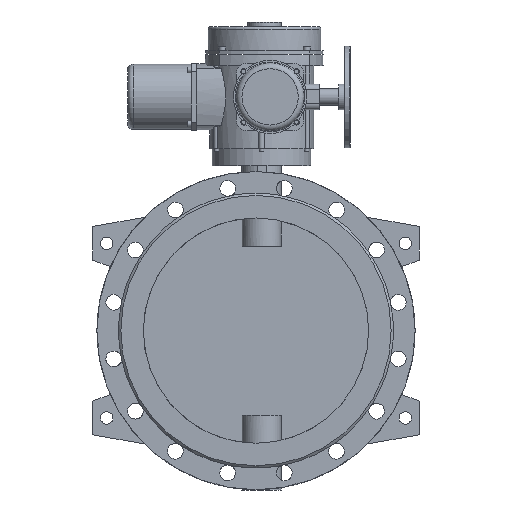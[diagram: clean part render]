
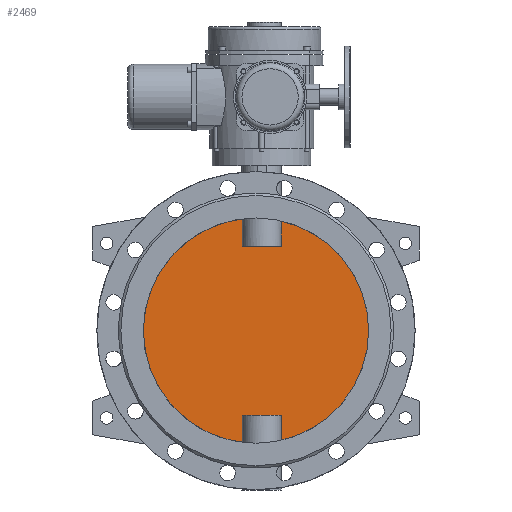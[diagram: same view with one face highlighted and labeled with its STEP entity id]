
A CAD part, front view. The second image highlights one B-rep face of the part: STEP entity #2469.
In plain terms, the highlighted planar face has unit normal (0, -1, 0).
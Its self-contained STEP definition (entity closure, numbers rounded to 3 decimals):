
#2469=ADVANCED_FACE('',(#6301),#6303,.F.);
#6301=FACE_BOUND('',#6302,.T.);
#6302=EDGE_LOOP('',(#8626,#8627,#8628,#8629,#8630,#8631,#8632,#8633));
#6303=PLANE('',#6304);
#6304=AXIS2_PLACEMENT_3D('',#6305,#6306,#6307);
#6305=CARTESIAN_POINT('',(0.,-5.,0.));
#6306=DIRECTION('',(0.,1.,0.));
#6307=DIRECTION('',(1.,0.,0.));
#8626=ORIENTED_EDGE('',*,*,#9831,.T.);
#8627=ORIENTED_EDGE('',*,*,#9847,.T.);
#8628=ORIENTED_EDGE('',*,*,#9848,.T.);
#8629=ORIENTED_EDGE('',*,*,#9849,.T.);
#8630=ORIENTED_EDGE('',*,*,#9833,.T.);
#8631=ORIENTED_EDGE('',*,*,#9850,.T.);
#8632=ORIENTED_EDGE('',*,*,#9851,.T.);
#8633=ORIENTED_EDGE('',*,*,#9852,.T.);
#9831=EDGE_CURVE('',#11296,#11297,#11298,.F.);
#9833=EDGE_CURVE('',#11301,#11299,#11302,.F.);
#9847=EDGE_CURVE('',#11297,#11324,#11325,.T.);
#9848=EDGE_CURVE('',#11324,#11326,#11327,.F.);
#9849=EDGE_CURVE('',#11326,#11301,#11328,.F.);
#9850=EDGE_CURVE('',#11299,#11329,#11330,.F.);
#9851=EDGE_CURVE('',#11329,#11331,#11332,.F.);
#9852=EDGE_CURVE('',#11331,#11296,#11333,.T.);
#11296=VERTEX_POINT('',#17680);
#11297=VERTEX_POINT('',#17681);
#11298=CIRCLE('',#17682,200.);
#11299=VERTEX_POINT('',#17686);
#11301=VERTEX_POINT('',#17749);
#11302=CIRCLE('',#17750,200.);
#11324=VERTEX_POINT('',#17919);
#11325=LINE('',#17920,#17921);
#11326=VERTEX_POINT('',#17923);
#11327=LINE('',#17924,#17925);
#11328=LINE('',#17927,#17928);
#11329=VERTEX_POINT('',#17930);
#11330=LINE('',#17931,#17932);
#11331=VERTEX_POINT('',#17934);
#11332=LINE('',#17935,#17936);
#11333=LINE('',#17938,#17939);
#17680=CARTESIAN_POINT('',(44.641,-5.,-194.954));
#17681=CARTESIAN_POINT('',(44.641,-5.,194.954));
#17682=AXIS2_PLACEMENT_3D('',#17683,#17684,#17685);
#17683=CARTESIAN_POINT('',(0.,-5.,0.));
#17684=DIRECTION('',(0.,1.,0.));
#17685=DIRECTION('',(0.223,0.,0.975));
#17686=CARTESIAN_POINT('',(-24.641,-5.,-198.476));
#17749=CARTESIAN_POINT('',(-24.641,-5.,198.476));
#17750=AXIS2_PLACEMENT_3D('',#17751,#17752,#17753);
#17751=CARTESIAN_POINT('',(0.,-5.,0.));
#17752=DIRECTION('',(0.,1.,0.));
#17753=DIRECTION('',(-0.123,0.,-0.992));
#17919=CARTESIAN_POINT('',(44.641,-5.,150.));
#17920=CARTESIAN_POINT('',(44.641,-5.,194.954));
#17921=VECTOR('',#17922,1.);
#17922=DIRECTION('',(0.,0.,-1.));
#17923=CARTESIAN_POINT('',(-24.641,-5.,150.));
#17924=CARTESIAN_POINT('',(-24.641,-5.,150.));
#17925=VECTOR('',#17926,1.);
#17926=DIRECTION('',(1.,0.,0.));
#17927=CARTESIAN_POINT('',(-24.641,-5.,198.476));
#17928=VECTOR('',#17929,1.);
#17929=DIRECTION('',(0.,0.,-1.));
#17930=CARTESIAN_POINT('',(-24.641,-5.,-150.));
#17931=CARTESIAN_POINT('',(-24.641,-5.,-150.));
#17932=VECTOR('',#17933,1.);
#17933=DIRECTION('',(0.,0.,-1.));
#17934=CARTESIAN_POINT('',(44.641,-5.,-150.));
#17935=CARTESIAN_POINT('',(44.641,-5.,-150.));
#17936=VECTOR('',#17937,1.);
#17937=DIRECTION('',(-1.,0.,0.));
#17938=CARTESIAN_POINT('',(44.641,-5.,-150.));
#17939=VECTOR('',#17940,1.);
#17940=DIRECTION('',(0.,0.,-1.));
